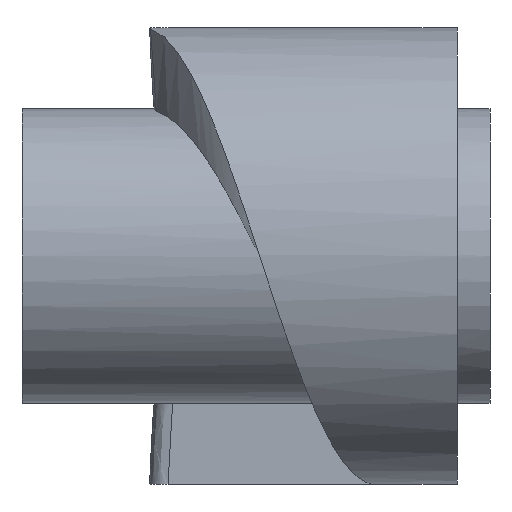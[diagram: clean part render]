
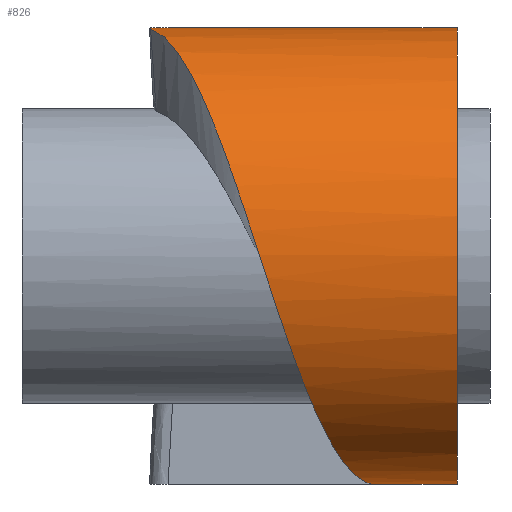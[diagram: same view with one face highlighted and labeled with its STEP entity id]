
A CAD part, left-side view. The second image highlights one B-rep face of the part: STEP entity #826.
In plain terms, the highlighted cylindrical face has radius 6.2 mm (diameter 12.4 mm), a partial arc.
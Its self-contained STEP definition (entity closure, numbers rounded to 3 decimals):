
#3 = CARTESIAN_POINT ( 'NONE',  ( -3.985, 4.839, 4.749 ) ) ;
#17 = CARTESIAN_POINT ( 'NONE',  ( 0., -0.1, -6.2 ) ) ;
#39 = CARTESIAN_POINT ( 'NONE',  ( -5.369, 4.133, 3.1 ) ) ;
#47 = LINE ( 'NONE', #763, #1791 ) ;
#51 = EDGE_LOOP ( 'NONE', ( #2127, #1053, #727, #1745, #866, #1910 ) ) ;
#77 = CARTESIAN_POINT ( 'NONE',  ( 0., -0.1, 6.2 ) ) ;
#78 = VERTEX_POINT ( 'NONE', #103 ) ;
#103 = CARTESIAN_POINT ( 'NONE',  ( 0., -0.1, -6.2 ) ) ;
#179 = CARTESIAN_POINT ( 'NONE',  ( -0.654, 6.037, 6.165 ) ) ;
#188 = CARTESIAN_POINT ( 'NONE',  ( -4.823, 4.486, 4.047 ) ) ;
#194 = EDGE_CURVE ( 'NONE', #359, #215, #309, .T. ) ;
#215 = VERTEX_POINT ( 'NONE', #785 ) ;
#228 = LINE ( 'NONE', #351, #848 ) ;
#236 = FACE_OUTER_BOUND ( 'NONE', #51, .T. ) ;
#309 = CIRCLE ( 'NONE', #942, 6.2 ) ;
#326 = AXIS2_PLACEMENT_3D ( 'NONE', #2076, #908, #1566 ) ;
#351 = CARTESIAN_POINT ( 'NONE',  ( 0., -20.711, -6.2 ) ) ;
#359 = VERTEX_POINT ( 'NONE', #383 ) ;
#362 = CARTESIAN_POINT ( 'NONE',  ( -6.106, 2.722, -1.077 ) ) ;
#383 = CARTESIAN_POINT ( 'NONE',  ( 0., -2.286, -6.2 ) ) ;
#404 = CARTESIAN_POINT ( 'NONE',  ( -0.654, 6.037, 6.165 ) ) ;
#491 = CARTESIAN_POINT ( 'NONE',  ( 0., 5.562, 6.2 ) ) ;
#522 = EDGE_CURVE ( 'NONE', #215, #1451, #47, .T. ) ;
#533 = CARTESIAN_POINT ( 'NONE',  ( -4.823, 1.664, -4.047 ) ) ;
#647 = CARTESIAN_POINT ( 'NONE',  ( -0.27, 6.013, 6.194 ) ) ;
#656 = DIRECTION ( 'NONE',  ( 0., 1., 0. ) ) ;
#683 = EDGE_CURVE ( 'NONE', #1451, #830, #991, .T. ) ;
#692 = CARTESIAN_POINT ( 'NONE',  ( -6.106, 3.428, 1.077 ) ) ;
#711 = DIRECTION ( 'NONE',  ( 0., 1., 0. ) ) ;
#727 = ORIENTED_EDGE ( 'NONE', *, *, #522, .T. ) ;
#763 = CARTESIAN_POINT ( 'NONE',  ( 0., -20.711, 6.2 ) ) ;
#785 = CARTESIAN_POINT ( 'NONE',  ( 0., -2.286, 6.2 ) ) ;
#790 = DIRECTION ( 'NONE',  ( 0., 0., 1. ) ) ;
#826 = ADVANCED_FACE ( 'NONE', ( #236 ), #2140, .T. ) ;
#830 = VERTEX_POINT ( 'NONE', #1246 ) ;
#848 = VECTOR ( 'NONE', #711, 1000. ) ;
#853 = CARTESIAN_POINT ( 'NONE',  ( -0.079, 5.875, 6.201 ) ) ;
#866 = ORIENTED_EDGE ( 'NONE', *, *, #2073, .T. ) ;
#880 = CARTESIAN_POINT ( 'NONE',  ( -3.148, 0.958, -5.452 ) ) ;
#908 = DIRECTION ( 'NONE',  ( 0., 1., 0. ) ) ;
#942 = AXIS2_PLACEMENT_3D ( 'NONE', #2175, #1636, #790 ) ;
#991 = LINE ( 'NONE', #1866, #1103 ) ;
#994 = VERTEX_POINT ( 'NONE', #404 ) ;
#1000 = CARTESIAN_POINT ( 'NONE',  ( -0.579, 6.061, 6.173 ) ) ;
#1053 = ORIENTED_EDGE ( 'NONE', *, *, #194, .T. ) ;
#1072 = CARTESIAN_POINT ( 'NONE',  ( -2.121, 5.544, 5.826 ) ) ;
#1103 = VECTOR ( 'NONE', #656, 1000. ) ;
#1246 = CARTESIAN_POINT ( 'NONE',  ( 0., 5.562, 6.2 ) ) ;
#1387 = CARTESIAN_POINT ( 'NONE',  ( -5.916, 3.781, 2.153 ) ) ;
#1451 = VERTEX_POINT ( 'NONE', #77 ) ;
#1560 = CARTESIAN_POINT ( 'NONE',  ( -5.369, 2.017, -3.1 ) ) ;
#1566 = DIRECTION ( 'NONE',  ( 0., 0., 1. ) ) ;
#1573 = CARTESIAN_POINT ( 'NONE',  ( -6.296, 3.075, 0. ) ) ;
#1636 = DIRECTION ( 'NONE',  ( 0., 1., 0. ) ) ;
#1711 = CARTESIAN_POINT ( 'NONE',  ( -3.148, 5.192, 5.452 ) ) ;
#1744 = CARTESIAN_POINT ( 'NONE',  ( -5.916, 2.369, -2.153 ) ) ;
#1745 = ORIENTED_EDGE ( 'NONE', *, *, #683, .T. ) ;
#1757 =( BOUNDED_CURVE ( )  B_SPLINE_CURVE ( 2, ( #179, #2051, #1072, #1711, #3, #188, #39, #1387, #692, #1573, #362, #1744, #1560, #533, #1904, #880, #1911, #2072, #17 ),
 .UNSPECIFIED., .F., .T. ) 
 B_SPLINE_CURVE_WITH_KNOTS ( ( 3, 2, 2, 2, 2, 2, 2, 2, 2, 3 ),
 ( 0.517, 0.556, 0.611, 0.667, 0.722, 0.778, 0.833, 0.889, 0.944, 1. ),
 .UNSPECIFIED. ) 
 CURVE ( )  GEOMETRIC_REPRESENTATION_ITEM ( )  RATIONAL_B_SPLINE_CURVE ( ( 0.994, 0.989, 1., 0.985, 1., 0.985, 1., 0.985, 1., 0.985, 1., 0.985, 1., 0.985, 1., 0.985, 1., 0.985, 1. ) ) 
 REPRESENTATION_ITEM ( '' )  );
#1791 = VECTOR ( 'NONE', #1808, 1000. ) ;
#1808 = DIRECTION ( 'NONE',  ( 0., 1., 0. ) ) ;
#1846 = CARTESIAN_POINT ( 'NONE',  ( -0.345, 6.044, 6.191 ) ) ;
#1866 = CARTESIAN_POINT ( 'NONE',  ( 0., -20.711, 6.2 ) ) ;
#1879 = CARTESIAN_POINT ( 'NONE',  ( 0., 5.721, 6.2 ) ) ;
#1895 = B_SPLINE_CURVE_WITH_KNOTS ( 'NONE', 3,
 ( #491, #1879, #853, #647, #1846, #2013, #1000, #2191 ),
 .UNSPECIFIED., .F., .F.,
 ( 4, 2, 2, 4 ),
 ( 0., 0., 0.001, 0.001 ),
 .UNSPECIFIED. ) ;
#1904 = CARTESIAN_POINT ( 'NONE',  ( -3.985, 1.311, -4.749 ) ) ;
#1910 = ORIENTED_EDGE ( 'NONE', *, *, #2156, .T. ) ;
#1911 = CARTESIAN_POINT ( 'NONE',  ( -2.121, 0.606, -5.826 ) ) ;
#2013 = CARTESIAN_POINT ( 'NONE',  ( -0.5, 6.068, 6.18 ) ) ;
#2051 = CARTESIAN_POINT ( 'NONE',  ( -1.408, 5.789, 6.085 ) ) ;
#2072 = CARTESIAN_POINT ( 'NONE',  ( -1.093, 0.253, -6.2 ) ) ;
#2073 = EDGE_CURVE ( 'NONE', #830, #994, #1895, .T. ) ;
#2076 = CARTESIAN_POINT ( 'NONE',  ( 0., -20.711, 0. ) ) ;
#2121 = EDGE_CURVE ( 'NONE', #359, #78, #228, .T. ) ;
#2127 = ORIENTED_EDGE ( 'NONE', *, *, #2121, .F. ) ;
#2140 = CYLINDRICAL_SURFACE ( 'NONE', #326, 6.2 ) ;
#2156 = EDGE_CURVE ( 'NONE', #994, #78, #1757, .T. ) ;
#2175 = CARTESIAN_POINT ( 'NONE',  ( 0., -2.286, 0. ) ) ;
#2191 = CARTESIAN_POINT ( 'NONE',  ( -0.654, 6.037, 6.165 ) ) ;
